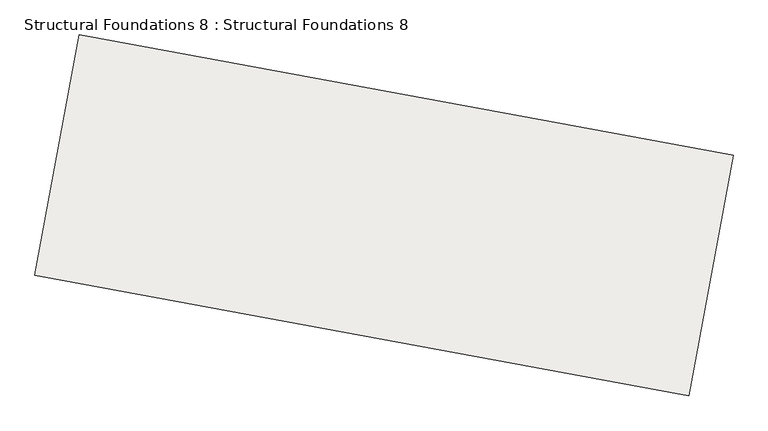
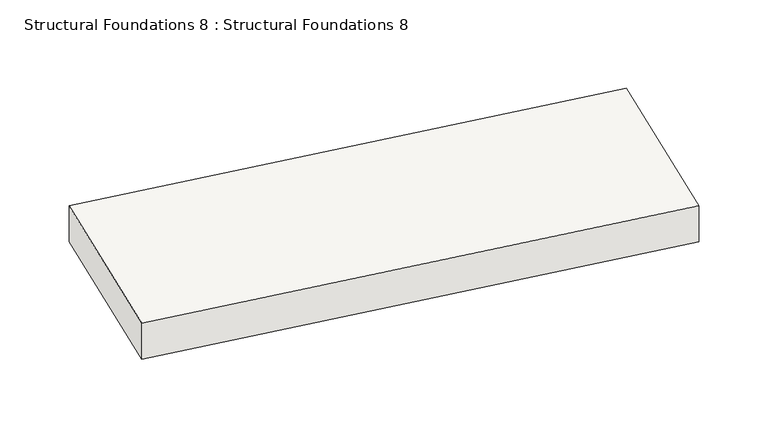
"""IFC4 building model written with IfcOpenShell, lengths in millimetres: slab geometry, Structural Foundations 8 : Structural Foundations 8."""

import ifcopenshell
import ifcopenshell.guid

model = None  # the IFC model being written
_history = None  # IfcOwnerHistory: only IFC2X3 demands one
_inside = {}  # id of a spatial element -> (the spatial element, [elements in it])
_under = {}  # id of a project, library or spatial element -> (it, [spatial elements below it])
_declared = {}  # id of a project -> (the project, [libraries it declares])
_typed = {}  # id of a type object -> (the type object, [elements of that type])
_made_of = {}  # id of a material, layer set ... -> (it, [elements and type objects made of it])


def new_model(schema):
    """Start an empty IFC model of exactly this schema.

    Asked for "IFC4X3", IfcOpenShell would pick the latest addendum, in which some entities
    have other attributes; the version numbers below select the first issue.
    IFC2X3 requires an IfcOwnerHistory on every rooted entity: one is made here for all.
    """
    global model, _history
    if schema == "IFC4X3":
        model = ifcopenshell.file(schema_version=(4, 3, 0, 0))
    else:
        model = ifcopenshell.file(schema=schema)
    _inside.clear()
    _under.clear()
    _declared.clear()
    _typed.clear()
    _made_of.clear()
    _history = None
    if model.schema == "IFC2X3":
        org = make("IfcOrganization", Name="unknown")
        user = make(
            "IfcPersonAndOrganization",
            ThePerson=make("IfcPerson", FamilyName="unknown"),
            TheOrganization=org,
        )
        app = make(
            "IfcApplication",
            ApplicationDeveloper=org,
            Version="unknown",
            ApplicationFullName="unknown",
            ApplicationIdentifier="unknown",
        )
        _history = make(
            "IfcOwnerHistory",
            OwningUser=user,
            OwningApplication=app,
            ChangeAction="ADDED",
            CreationDate=0,
        )
    return model


def make(cls, **values):
    """One entity of the class cls with the attributes given. An attribute that is None is left unset."""
    return model.create_entity(
        cls, **{name: value for name, value in values.items() if value is not None}
    )


def rooted(cls, **values):
    """An entity with a GlobalId (a new one), such as an element, a storey or a relation."""
    return make(cls, GlobalId=ifcopenshell.guid.new(), OwnerHistory=_history, **values)


def si_unit(unit_type, name, prefix=None):
    """IfcSIUnit, for example si_unit("LENGTHUNIT", "METRE", prefix="MILLI")."""
    return make("IfcSIUnit", UnitType=unit_type, Prefix=prefix, Name=name)


def assignment(units):
    """IfcUnitAssignment: the units of a project."""
    return None if units is None else make("IfcUnitAssignment", Units=units)


def point(xyz):
    """IfcCartesianPoint."""
    return None if xyz is None else make("IfcCartesianPoint", Coordinates=xyz)


def direction(xyz):
    """IfcDirection."""
    return None if xyz is None else make("IfcDirection", DirectionRatios=xyz)


def frame(location, z_axis=None, x_axis=None):
    """IfcAxis2Placement3D, a coordinate frame: its origin and axes. An axis left out is left unset."""
    return make(
        "IfcAxis2Placement3D",
        Location=point(location),
        Axis=direction(z_axis),
        RefDirection=direction(x_axis),
    )


def origin():
    """The frame at (0, 0, 0) with its axes left unset."""
    return frame((0.0, 0.0, 0.0))


def place(relative_to, where):
    """IfcLocalPlacement: puts the frame where relative to a parent placement (None: the world)."""
    return make(
        "IfcLocalPlacement", PlacementRelTo=relative_to, RelativePlacement=where
    )


def context(
    kind, dimensions, precision=None, world=None, true_north=None, identifier=None
):
    """IfcGeometricRepresentationContext, for example the 3D "Model" context."""
    return make(
        "IfcGeometricRepresentationContext",
        ContextIdentifier=identifier,
        ContextType=kind,
        CoordinateSpaceDimension=dimensions,
        Precision=precision,
        WorldCoordinateSystem=world,
        TrueNorth=true_north,
    )


def project(units=None, contexts=None):
    """IfcProject with its units and contexts."""
    return rooted(
        "IfcProject",
        Name="project",
        RepresentationContexts=contexts,
        UnitsInContext=assignment(units),
    )


def spatial(cls, under=None, at=None, **own):
    """A site, building, storey or space (cls), placed at a placement, below another one or the project."""
    s = rooted(cls, ObjectPlacement=at, **own)
    if under is not None:
        _under.setdefault(under.id(), (under, []))[1].append(s)
    return s


def shape(context_of_items, identifier, shape_type, items):
    """IfcShapeRepresentation: the items that make up one representation, for example the "Body"."""
    return make(
        "IfcShapeRepresentation",
        ContextOfItems=context_of_items,
        RepresentationIdentifier=identifier,
        RepresentationType=shape_type,
        Items=items,
    )


def source(mapping_origin, context_of_items, identifier, shape_type, items):
    """IfcRepresentationMap: a shape defined once, which mapped items show again and again."""
    return make(
        "IfcRepresentationMap",
        MappingOrigin=mapping_origin,
        MappedRepresentation=shape(context_of_items, identifier, shape_type, items),
    )


def transform(
    local_origin,
    x_axis=None,
    y_axis=None,
    z_axis=None,
    scale=None,
    scale2=None,
    scale3=None,
    uniform=True,
):
    """IfcCartesianTransformationOperator3D, or its non-uniform kind. x_axis, y_axis, z_axis: its Axis1, 2, 3."""
    if uniform:
        return make(
            "IfcCartesianTransformationOperator3D",
            Axis1=direction(x_axis),
            Axis2=direction(y_axis),
            LocalOrigin=point(local_origin),
            Scale=scale,
            Axis3=direction(z_axis),
        )
    return make(
        "IfcCartesianTransformationOperator3DnonUniform",
        Axis1=direction(x_axis),
        Axis2=direction(y_axis),
        LocalOrigin=point(local_origin),
        Scale=scale,
        Axis3=direction(z_axis),
        Scale2=scale2,
        Scale3=scale3,
    )


def mapped(mapping_source, mapping_target):
    """IfcMappedItem: shows the shape of a source again, moved by a transform."""
    return make(
        "IfcMappedItem", MappingSource=mapping_source, MappingTarget=mapping_target
    )


def made_of(thing, what):
    """Note that an element or type object is made of a material, layer set ...; save() writes the relation."""
    if what is not None:
        _made_of.setdefault(what.id(), (what, []))[1].append(thing)
    return thing


def element(
    cls,
    number,
    at=None,
    inside=None,
    cuts=None,
    type_object=None,
    material=None,
    context=None,
    identifier="Body",
    shape_type=None,
    held_by="IfcProductDefinitionShape",
    body=None,
    shapes=None,
    **own,
):
    """One element of the class cls, such as IfcWall. Its Tag is "e" and its number.

    at: its placement. inside: the storey or other place that contains it. cuts: it is an
    opening in that element (IfcRelVoidsElement). A single representation is given by context,
    identifier, shape_type and body (its items); several are given by shapes. held_by: the class
    of the entity that holds the representations. save() writes the other relations.
    """
    e = rooted(cls, Tag="e%d" % number, ObjectPlacement=at, **own)
    if body is not None:
        shapes = [shape(context, identifier, shape_type, body)]
    if shapes is not None:
        e.Representation = make(held_by, Representations=shapes)
    if inside is not None:
        _inside.setdefault(inside.id(), (inside, []))[1].append(e)
    if cuts is not None:
        rooted(
            "IfcRelVoidsElement", RelatingBuildingElement=cuts, RelatedOpeningElement=e
        )
    if type_object is not None:
        _typed.setdefault(type_object.id(), (type_object, []))[1].append(e)
    return made_of(e, material)


def aggregate(whole, parts):
    """IfcRelAggregates: a whole, such as a stair, and the parts it consists of."""
    return rooted("IfcRelAggregates", RelatingObject=whole, RelatedObjects=parts)


def save(model, path):
    """Write the relations noted so far, then the file.

    IfcRelAggregates (storeys below a building ...), IfcRelContainedInSpatialStructure (elements
    in a storey), IfcRelDefinesByType, IfcRelAssociatesMaterial and IfcRelDeclares: one each for
    every whole, place, type object, material and project.
    """
    for whole, parts in _under.values():
        aggregate(whole, parts)
    for where, things in _inside.values():
        rooted(
            "IfcRelContainedInSpatialStructure",
            RelatedElements=things,
            RelatingStructure=where,
        )
    for kind, things in _typed.values():
        rooted("IfcRelDefinesByType", RelatedObjects=things, RelatingType=kind)
    for what, things in _made_of.values():
        rooted("IfcRelAssociatesMaterial", RelatedObjects=things, RelatingMaterial=what)
    for by, libraries in _declared.values():
        rooted("IfcRelDeclares", RelatingContext=by, RelatedDefinitions=libraries)
    model.write(path)


def plane_surface(at):
    """IfcPlane: the flat surface through the origin of the frame at, square to its z axis."""
    return make("IfcPlane", Position=at)


def spline_surface(u_degree, v_degree, points, u_multiplicities, v_multiplicities, u_knots, v_knots, weights=None):
    """IfcBSplineSurfaceWithKnots; with weights, IfcRationalBSplineSurfaceWithKnots. points: one row for each step in u."""
    own = dict(
        UDegree=u_degree,
        VDegree=v_degree,
        ControlPointsList=[[point(p) for p in row] for row in points],
        SurfaceForm="UNSPECIFIED",
        UClosed=False,
        VClosed=False,
        SelfIntersect=False,
        UMultiplicities=u_multiplicities,
        VMultiplicities=v_multiplicities,
        UKnots=u_knots,
        VKnots=v_knots,
        KnotSpec="UNSPECIFIED",
    )
    if weights is None:
        return make("IfcBSplineSurfaceWithKnots", **own)
    return make("IfcRationalBSplineSurfaceWithKnots", WeightsData=weights, **own)


def advanced_brep(points, edges, surfaces, faces):
    """IfcAdvancedBrep: a solid bounded by faces that lie on surfaces and meet in shared edges.

    An edge is (start, end): straight between two places in points (the first is 0);
    or (start, end, curve); or (start, end, curve, False) where it runs against its curve.
    A face is (place in surfaces, loops), or (place, loops, False) where it looks against
    its surface's normal. A loop lists edges by number (the first is 1), with a minus sign
    where the edge is run from its end to its start. The first loop is the outer one.
    """
    corners = [point(p) for p in points]
    vertices = [make("IfcVertexPoint", VertexGeometry=c) for c in corners]
    made = []
    for start, end, *more in edges:
        made.append(
            make(
                "IfcEdgeCurve",
                EdgeStart=vertices[start],
                EdgeEnd=vertices[end],
                EdgeGeometry=more[0] if more else make("IfcPolyline", Points=[corners[start], corners[end]]),
                SameSense=more[1] if len(more) > 1 else True,
            )
        )
    hull = []
    for where, loops, *sense in faces:
        bounds = []
        for j, loop in enumerate(loops):
            ring = [make("IfcOrientedEdge", EdgeElement=made[abs(k) - 1], Orientation=k > 0) for k in loop]
            bounds.append(
                make(
                    "IfcFaceOuterBound" if j == 0 else "IfcFaceBound",
                    Bound=make("IfcEdgeLoop", EdgeList=ring),
                    Orientation=True,
                )
            )
        hull.append(make("IfcAdvancedFace", Bounds=bounds, FaceSurface=surfaces[where], SameSense=sense[0] if sense else True))
    return make("IfcAdvancedBrep", Outer=make("IfcClosedShell", CfsFaces=hull))


def structural_foundations_8_structural_foundations_8_6ceceeef(model_context):
    return source(origin(), model_context, "Body", "AdvancedBrep", [
        advanced_brep(
        [(-364467.1629839, -447453.8510108, 634986.0035917), (-365047.0258009, -450600.87486, 634986.0035917), (-365047.0258009, -450600.87486, 634336.0035917), (-364467.1629839, -447453.8510108, 634335.6358052), (-373023.1340761, -445877.3489756, 634912.9007794), (-373023.1340761, -445877.3489756, 634262.9007794), (-373602.9968932, -449024.3728249, 634262.9007794), (-373602.9968932, -449024.3728249, 634912.9007794)],
        [
            (0, 1),
            (1, 2),
            (2, 3),
            (3, 0),
            (4, 5),
            (5, 6),
            (6, 7),
            (7, 4),
            (6, 2),
            (1, 7),
            (5, 3),
            (4, 0),
        ],
        [
            plane_surface(frame((-364757.0943924, -449027.3629354, 634660.9116451), z_axis=(0.9834449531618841, -0.18120713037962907, 0.0), x_axis=(0.18120712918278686, 0.9834449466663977, -0.00011493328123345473))),
            plane_surface(frame((-373313.0654847, -447450.8609002, 634587.9007794), z_axis=(-0.9834449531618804, 0.18120713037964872, 0.0), x_axis=(-0.18120713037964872, -0.9834449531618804, 2.9453985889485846e-12))),
            plane_surface(frame((-373602.9968932, -449024.3728249, 634587.9007794), z_axis=(-0.18120713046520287, -0.9834449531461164, 0.0), x_axis=(0.0, 0.0, -1.0))),
            spline_surface(1, 1, [[(-373602.9968932, -449024.3728249, 634262.9007794), (-365047.0258009, -450600.87486, 634336.0035917)], [(-373023.1340761, -445877.3489756, 634262.9007794), (-364467.1629839, -447453.8510108, 634335.6358052)]], [2, 2], [2, 2], [0.0, 1.0], [0.0, 1.0]),
            plane_surface(frame((-373023.1340761, -445877.3489756, 634587.9007794), z_axis=(0.18120713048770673, 0.9834449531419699, 0.0), x_axis=(0.0, 0.0, 1.0))),
            plane_surface(frame((-373313.0654847, -447450.8609002, 634912.9007794), z_axis=(-0.008263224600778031, 0.001522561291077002, 0.9999646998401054), x_axis=(-0.18120713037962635, -0.9834449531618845, 0.0))),
        ],
        [
            (0, [[1, 2, 3, 4]]),
            (1, [[5, 6, 7, 8]]),
            (2, [[-7, 9, -2, 10]]),
            (3, [[-6, 11, -3, -9]]),
            (4, [[-5, 12, -4, -11]]),
            (5, [[-8, -10, -1, -12]]),
        ],
    ),
    ])


if __name__ == "__main__":
    model = new_model("IFC4")
    model_context = context("Model", 3, world=origin())
    ifc_project = project(units=[si_unit("LENGTHUNIT", "METRE", prefix="MILLI")], contexts=[model_context])
    site = spatial("IfcSite", under=ifc_project)
    building = spatial("IfcBuilding", under=site)
    placement = place(None, origin())
    structural_foundations_8_structural_foundations_8_shape = structural_foundations_8_structural_foundations_8_6ceceeef(model_context)
    element("IfcSlab", 1, ObjectType="Structural Foundations 8 : Structural Foundations 8", at=placement, inside=building, context=model_context, shape_type="MappedRepresentation", body=[
        mapped(structural_foundations_8_structural_foundations_8_shape, transform((0.0, 0.0, 0.0), x_axis=(1.0, 0.0, 0.0), y_axis=(0.0, 1.0, 0.0), z_axis=(0.0, 0.0, 1.0))),
    ])
    save(model, "model.ifc")
